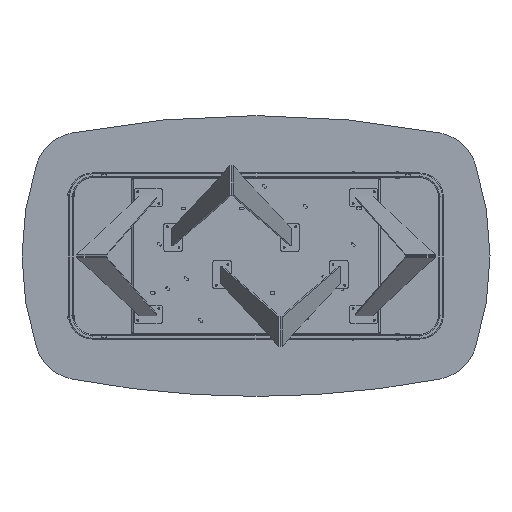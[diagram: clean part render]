
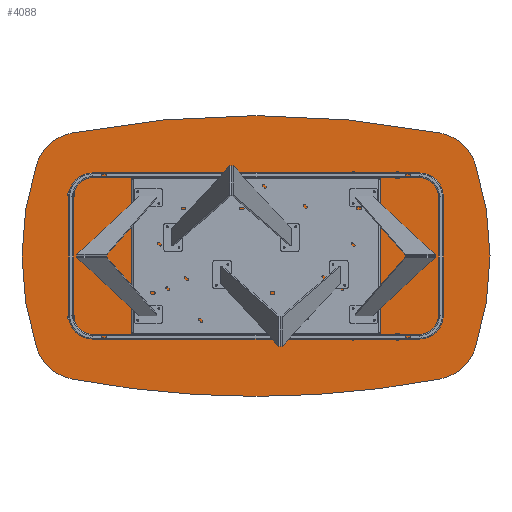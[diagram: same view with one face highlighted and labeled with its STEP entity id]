
A CAD part, front view. The second image highlights one B-rep face of the part: STEP entity #4088.
In plain terms, the highlighted planar face has unit normal (0, -1, 0).
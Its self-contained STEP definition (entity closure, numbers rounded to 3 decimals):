
#81 = ORIENTED_EDGE ( 'NONE', *, *, #17690, .T. ) ;
#187 = ORIENTED_EDGE ( 'NONE', *, *, #2227, .T. ) ;
#349 = DIRECTION ( 'NONE',  ( 0., -1., 0. ) ) ;
#916 = DIRECTION ( 'NONE',  ( 0., 0., 1. ) ) ;
#1062 = CARTESIAN_POINT ( 'NONE',  ( -784.906, 0., 526.006 ) ) ;
#1120 = ORIENTED_EDGE ( 'NONE', *, *, #5807, .F. ) ;
#1556 = CARTESIAN_POINT ( 'NONE',  ( 261., 0., 0. ) ) ;
#2163 = AXIS2_PLACEMENT_3D ( 'NONE', #13052, #5638, #2455 ) ;
#2227 = EDGE_CURVE ( 'NONE', #18696, #5513, #15992, .T. ) ;
#2455 = DIRECTION ( 'NONE',  ( 0., 0., 1. ) ) ;
#2670 = EDGE_CURVE ( 'NONE', #16134, #6661, #9452, .T. ) ;
#2912 = CARTESIAN_POINT ( 'NONE',  ( 0., 0., -3600. ) ) ;
#3057 = CIRCLE ( 'NONE', #4686, 200. ) ;
#3095 = VERTEX_POINT ( 'NONE', #12604 ) ;
#3210 = AXIS2_PLACEMENT_3D ( 'NONE', #20110, #15371, #14135 ) ;
#3455 = VERTEX_POINT ( 'NONE', #10248 ) ;
#4088 = ADVANCED_FACE ( 'NONE', ( #14787 ), #5649, .F. ) ;
#4686 = AXIS2_PLACEMENT_3D ( 'NONE', #6734, #19483, #16096 ) ;
#5313 = DIRECTION ( 'NONE',  ( 0., 1., 0. ) ) ;
#5340 = CARTESIAN_POINT ( 'NONE',  ( 784.906, 0., -526.006 ) ) ;
#5513 = VERTEX_POINT ( 'NONE', #10087 ) ;
#5635 = VERTEX_POINT ( 'NONE', #19950 ) ;
#5638 = DIRECTION ( 'NONE',  ( 0., 1., 0. ) ) ;
#5649 = PLANE ( 'NONE',  #17084 ) ;
#5807 = EDGE_CURVE ( 'NONE', #18696, #5635, #9483, .T. ) ;
#6080 = DIRECTION ( 'NONE',  ( 0., 0., 1. ) ) ;
#6654 = ORIENTED_EDGE ( 'NONE', *, *, #9845, .F. ) ;
#6661 = VERTEX_POINT ( 'NONE', #19980 ) ;
#6734 = CARTESIAN_POINT ( 'NONE',  ( -747.529, 0., 329.529 ) ) ;
#7736 = CIRCLE ( 'NONE', #13977, 4200. ) ;
#7852 = CARTESIAN_POINT ( 'NONE',  ( 747.529, 0., 329.529 ) ) ;
#8056 = EDGE_CURVE ( 'NONE', #17334, #6661, #12316, .T. ) ;
#8152 = DIRECTION ( 'NONE',  ( 0., 0., 1. ) ) ;
#8706 = DIRECTION ( 'NONE',  ( 0., 1., 0. ) ) ;
#8871 = ORIENTED_EDGE ( 'NONE', *, *, #2670, .T. ) ;
#9146 = DIRECTION ( 'NONE',  ( 0., 1., 0. ) ) ;
#9266 = CIRCLE ( 'NONE', #11904, 200. ) ;
#9452 = CIRCLE ( 'NONE', #14720, 200. ) ;
#9483 = CIRCLE ( 'NONE', #10105, 1261. ) ;
#9617 = EDGE_CURVE ( 'NONE', #20148, #3455, #7736, .T. ) ;
#9797 = EDGE_LOOP ( 'NONE', ( #15938, #81, #1120, #187, #6654, #18580, #8871, #11549, #18124 ) ) ;
#9845 = EDGE_CURVE ( 'NONE', #3095, #5513, #15617, .T. ) ;
#10087 = CARTESIAN_POINT ( 'NONE',  ( -784.906, 0., -526.006 ) ) ;
#10105 = AXIS2_PLACEMENT_3D ( 'NONE', #1556, #5313, #14658 ) ;
#10248 = CARTESIAN_POINT ( 'NONE',  ( 784.906, 0., 526.006 ) ) ;
#10399 = CARTESIAN_POINT ( 'NONE',  ( 937.639, 0., 391.646 ) ) ;
#10438 = DIRECTION ( 'NONE',  ( 0., 0., 1. ) ) ;
#11549 = ORIENTED_EDGE ( 'NONE', *, *, #8056, .F. ) ;
#11904 = AXIS2_PLACEMENT_3D ( 'NONE', #7852, #17415, #8152 ) ;
#12081 = CARTESIAN_POINT ( 'NONE',  ( 0., 0., 3600. ) ) ;
#12316 = CIRCLE ( 'NONE', #13647, 1261. ) ;
#12474 = CARTESIAN_POINT ( 'NONE',  ( -261., 0., 0. ) ) ;
#12604 = CARTESIAN_POINT ( 'NONE',  ( 0., 0., -600. ) ) ;
#12963 = DIRECTION ( 'NONE',  ( 0., 0., 1. ) ) ;
#13052 = CARTESIAN_POINT ( 'NONE',  ( 0., 0., 3600. ) ) ;
#13436 = EDGE_CURVE ( 'NONE', #16134, #3095, #19038, .T. ) ;
#13647 = AXIS2_PLACEMENT_3D ( 'NONE', #12474, #14971, #916 ) ;
#13977 = AXIS2_PLACEMENT_3D ( 'NONE', #2912, #9146, #6080 ) ;
#14135 = DIRECTION ( 'NONE',  ( 0., 0., 1. ) ) ;
#14658 = DIRECTION ( 'NONE',  ( 0., 0., 1. ) ) ;
#14720 = AXIS2_PLACEMENT_3D ( 'NONE', #17492, #349, #12963 ) ;
#14787 = FACE_OUTER_BOUND ( 'NONE', #9797, .T. ) ;
#14971 = DIRECTION ( 'NONE',  ( 0., 1., 0. ) ) ;
#15371 = DIRECTION ( 'NONE',  ( 0., -1., 0. ) ) ;
#15617 = CIRCLE ( 'NONE', #2163, 4200. ) ;
#15938 = ORIENTED_EDGE ( 'NONE', *, *, #9617, .F. ) ;
#15992 = CIRCLE ( 'NONE', #3210, 200. ) ;
#16096 = DIRECTION ( 'NONE',  ( 0., 0., 1. ) ) ;
#16134 = VERTEX_POINT ( 'NONE', #5340 ) ;
#17084 = AXIS2_PLACEMENT_3D ( 'NONE', #19726, #8706, #18082 ) ;
#17334 = VERTEX_POINT ( 'NONE', #10399 ) ;
#17415 = DIRECTION ( 'NONE',  ( 0., -1., 0. ) ) ;
#17492 = CARTESIAN_POINT ( 'NONE',  ( 747.529, 0., -329.529 ) ) ;
#17589 = CARTESIAN_POINT ( 'NONE',  ( -937.639, 0., -391.646 ) ) ;
#17690 = EDGE_CURVE ( 'NONE', #20148, #5635, #3057, .T. ) ;
#17938 = EDGE_CURVE ( 'NONE', #17334, #3455, #9266, .T. ) ;
#18082 = DIRECTION ( 'NONE',  ( 0., 0., 1. ) ) ;
#18124 = ORIENTED_EDGE ( 'NONE', *, *, #17938, .T. ) ;
#18580 = ORIENTED_EDGE ( 'NONE', *, *, #13436, .F. ) ;
#18696 = VERTEX_POINT ( 'NONE', #17589 ) ;
#18699 = AXIS2_PLACEMENT_3D ( 'NONE', #12081, #19797, #10438 ) ;
#19038 = CIRCLE ( 'NONE', #18699, 4200. ) ;
#19483 = DIRECTION ( 'NONE',  ( 0., -1., 0. ) ) ;
#19726 = CARTESIAN_POINT ( 'NONE',  ( -130.5, 0., 1800. ) ) ;
#19797 = DIRECTION ( 'NONE',  ( 0., 1., 0. ) ) ;
#19950 = CARTESIAN_POINT ( 'NONE',  ( -937.639, 0., 391.646 ) ) ;
#19980 = CARTESIAN_POINT ( 'NONE',  ( 937.639, 0., -391.646 ) ) ;
#20110 = CARTESIAN_POINT ( 'NONE',  ( -747.529, 0., -329.529 ) ) ;
#20148 = VERTEX_POINT ( 'NONE', #1062 ) ;
